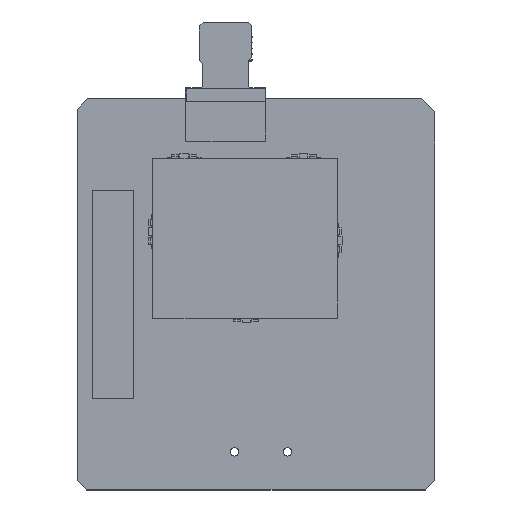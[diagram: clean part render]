
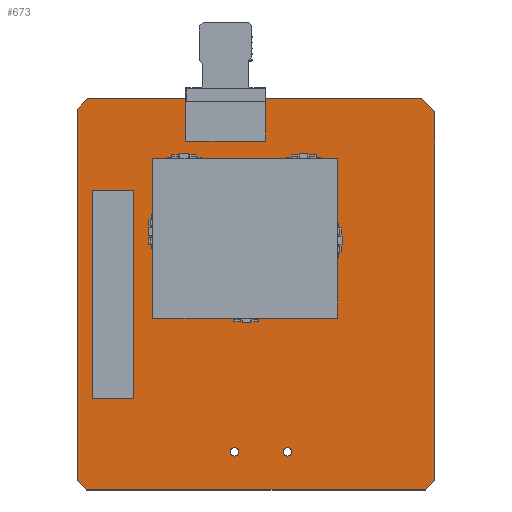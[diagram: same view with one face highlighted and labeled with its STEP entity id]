
A CAD part, top view. The second image highlights one B-rep face of the part: STEP entity #673.
In plain terms, the highlighted planar face has unit normal (0, 0, 1).
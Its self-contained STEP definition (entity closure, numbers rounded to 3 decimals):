
#280 = VERTEX_POINT('',#281);
#281 = CARTESIAN_POINT('',(0.,1.139,1.6));
#287 = EDGE_CURVE('',#280,#288,#290,.T.);
#288 = VERTEX_POINT('',#289);
#289 = CARTESIAN_POINT('',(1.139,0.,1.6));
#290 = LINE('',#291,#292);
#291 = CARTESIAN_POINT('',(0.,1.139,1.6));
#292 = VECTOR('',#293,1.);
#293 = DIRECTION('',(0.707,-0.707,0.));
#318 = EDGE_CURVE('',#288,#319,#321,.T.);
#319 = VERTEX_POINT('',#320);
#320 = CARTESIAN_POINT('',(41.852,0.,1.6));
#321 = LINE('',#322,#323);
#322 = CARTESIAN_POINT('',(1.139,0.,1.6));
#323 = VECTOR('',#324,1.);
#324 = DIRECTION('',(1.,0.,0.));
#349 = EDGE_CURVE('',#319,#350,#352,.T.);
#350 = VERTEX_POINT('',#351);
#351 = CARTESIAN_POINT('',(43.001,1.141,1.6));
#352 = LINE('',#353,#354);
#353 = CARTESIAN_POINT('',(41.852,0.,1.6));
#354 = VECTOR('',#355,1.);
#355 = DIRECTION('',(0.71,0.705,0.));
#380 = EDGE_CURVE('',#350,#381,#383,.T.);
#381 = VERTEX_POINT('',#382);
#382 = CARTESIAN_POINT('',(43.,39.982,1.6));
#383 = LINE('',#384,#385);
#384 = CARTESIAN_POINT('',(43.001,1.141,1.6));
#385 = VECTOR('',#386,1.);
#386 = DIRECTION('',(0.,1.,0.));
#411 = EDGE_CURVE('',#381,#412,#414,.T.);
#412 = VERTEX_POINT('',#413);
#413 = CARTESIAN_POINT('',(43.,45.443,1.6));
#414 = LINE('',#415,#416);
#415 = CARTESIAN_POINT('',(43.,39.982,1.6));
#416 = VECTOR('',#417,1.);
#417 = DIRECTION('',(0.,1.,0.));
#442 = EDGE_CURVE('',#412,#443,#445,.T.);
#443 = VERTEX_POINT('',#444);
#444 = CARTESIAN_POINT('',(41.427,47.015,1.6));
#445 = LINE('',#446,#447);
#446 = CARTESIAN_POINT('',(43.,45.443,1.6));
#447 = VECTOR('',#448,1.);
#448 = DIRECTION('',(-0.707,0.707,0.));
#473 = EDGE_CURVE('',#443,#474,#476,.T.);
#474 = VERTEX_POINT('',#475);
#475 = CARTESIAN_POINT('',(1.273,47.015,1.6));
#476 = LINE('',#477,#478);
#477 = CARTESIAN_POINT('',(41.427,47.015,1.6));
#478 = VECTOR('',#479,1.);
#479 = DIRECTION('',(-1.,0.,0.));
#504 = EDGE_CURVE('',#474,#505,#507,.T.);
#505 = VERTEX_POINT('',#506);
#506 = CARTESIAN_POINT('',(0.003,45.745,1.6));
#507 = LINE('',#508,#509);
#508 = CARTESIAN_POINT('',(1.273,47.015,1.6));
#509 = VECTOR('',#510,1.);
#510 = DIRECTION('',(-0.707,-0.707,0.));
#535 = EDGE_CURVE('',#505,#536,#538,.T.);
#536 = VERTEX_POINT('',#537);
#537 = CARTESIAN_POINT('',(0.,45.72,1.6));
#538 = LINE('',#539,#540);
#539 = CARTESIAN_POINT('',(0.003,45.745,1.6));
#540 = VECTOR('',#541,1.);
#541 = DIRECTION('',(-0.119,-0.993,0.));
#566 = EDGE_CURVE('',#536,#280,#567,.T.);
#567 = LINE('',#568,#569);
#568 = CARTESIAN_POINT('',(0.,45.72,1.6));
#569 = VECTOR('',#570,1.);
#570 = DIRECTION('',(0.,-1.,0.));
#590 = VERTEX_POINT('',#591);
#591 = CARTESIAN_POINT('',(19.426,4.579,1.6));
#597 = EDGE_CURVE('',#590,#590,#598,.T.);
#598 = CIRCLE('',#599,0.5);
#599 = AXIS2_PLACEMENT_3D('',#600,#601,#602);
#600 = CARTESIAN_POINT('',(18.926,4.579,1.6));
#601 = DIRECTION('',(0.,0.,1.));
#602 = DIRECTION('',(1.,0.,-0.));
#623 = VERTEX_POINT('',#624);
#624 = CARTESIAN_POINT('',(25.776,4.579,1.6));
#630 = EDGE_CURVE('',#623,#623,#631,.T.);
#631 = CIRCLE('',#632,0.5);
#632 = AXIS2_PLACEMENT_3D('',#633,#634,#635);
#633 = CARTESIAN_POINT('',(25.276,4.579,1.6));
#634 = DIRECTION('',(0.,0.,1.));
#635 = DIRECTION('',(1.,0.,-0.));
#673 = ADVANCED_FACE('',(#674,#686,#689),#692,.T.);
#674 = FACE_BOUND('',#675,.T.);
#675 = EDGE_LOOP('',(#676,#677,#678,#679,#680,#681,#682,#683,#684,#685)
  );
#676 = ORIENTED_EDGE('',*,*,#287,.T.);
#677 = ORIENTED_EDGE('',*,*,#318,.T.);
#678 = ORIENTED_EDGE('',*,*,#349,.T.);
#679 = ORIENTED_EDGE('',*,*,#380,.T.);
#680 = ORIENTED_EDGE('',*,*,#411,.T.);
#681 = ORIENTED_EDGE('',*,*,#442,.T.);
#682 = ORIENTED_EDGE('',*,*,#473,.T.);
#683 = ORIENTED_EDGE('',*,*,#504,.T.);
#684 = ORIENTED_EDGE('',*,*,#535,.T.);
#685 = ORIENTED_EDGE('',*,*,#566,.T.);
#686 = FACE_BOUND('',#687,.T.);
#687 = EDGE_LOOP('',(#688));
#688 = ORIENTED_EDGE('',*,*,#597,.F.);
#689 = FACE_BOUND('',#690,.T.);
#690 = EDGE_LOOP('',(#691));
#691 = ORIENTED_EDGE('',*,*,#630,.F.);
#692 = PLANE('',#693);
#693 = AXIS2_PLACEMENT_3D('',#694,#695,#696);
#694 = CARTESIAN_POINT('',(21.478,23.462,1.6));
#695 = DIRECTION('',(0.,0.,1.));
#696 = DIRECTION('',(1.,0.,-0.));
